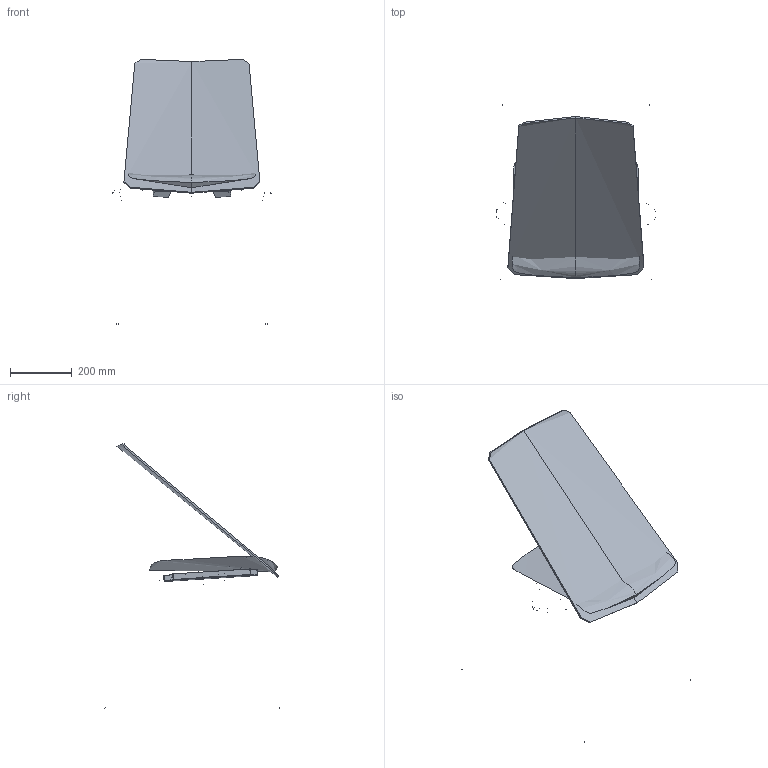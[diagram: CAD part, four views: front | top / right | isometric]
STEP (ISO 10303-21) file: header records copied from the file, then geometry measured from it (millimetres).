
FILE_DESCRIPTION(/* description */ (''),/* implementation_level */ '2;1');
FILE_NAME(/* name */ 'Evo 011,SR',/* time_stamp */ '2023-03-21T17:10:09+01:00',/* author */ (''),/* organization */ (''),/* preprocessor_version */ 'ST-DEVELOPER v16.5',/* originating_system */ 'Rhino 7.27',/* authorisation */ '');
FILE_SCHEMA (('CONFIG_CONTROL_DESIGN'));
Length unit declared in the file: millimetre
Products named in the file (1): Document
Bounding box: 515.8 x 569.47 x 862.02 mm (x, y, z)
Volume: 95868.5 mm3; surface area: 1272040 mm2
Topology: 2 solids, 20 shells, 82 faces, 185 edges, 119 vertices
Faces by surface type: bspline 40, plane 24, cylinder 18
Full cylindrical faces by diameter (mm): 6 x6, 22 x12
Entity records: 6855 total; most frequent: CARTESIAN_POINT 5588, ORIENTED_EDGE 326, EDGE_CURVE 181, VERTEX_POINT 115, B_SPLINE_CURVE_WITH_KNOTS 104, ADVANCED_FACE 82, FACE_OUTER_BOUND 82, EDGE_LOOP 82
